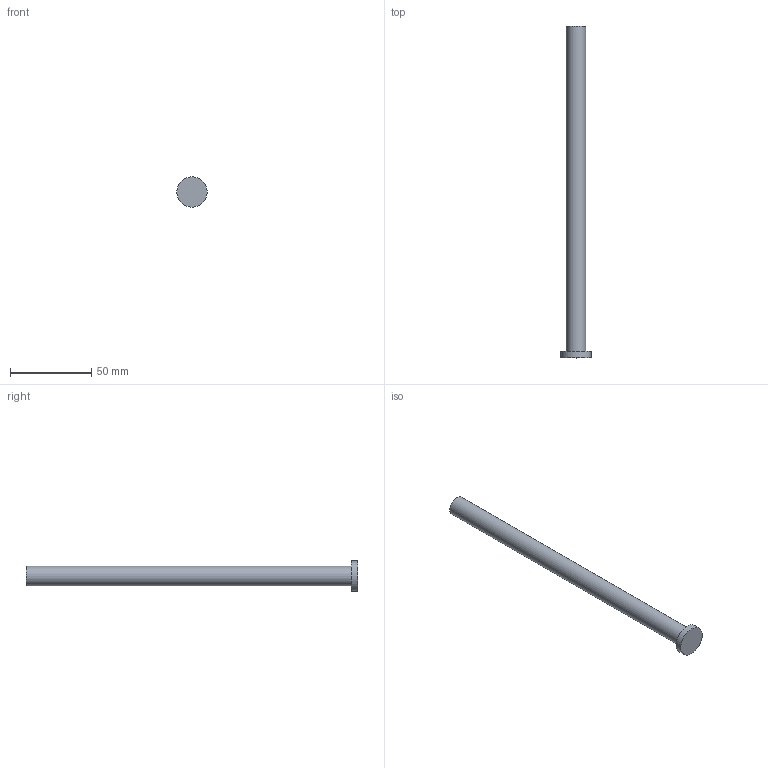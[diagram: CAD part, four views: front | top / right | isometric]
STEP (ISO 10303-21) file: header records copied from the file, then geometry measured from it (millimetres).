
FILE_DESCRIPTION(('Open CASCADE Model'),'2;1');
FILE_NAME('Open CASCADE Shape Model','2026-10-20T13:19:35',('Author'),( 'Open CASCADE'),'Open CASCADE STEP processor 7.9','Open CASCADE 7.9' ,'Unknown');
FILE_SCHEMA(('AUTOMOTIVE_DESIGN { 1 0 10303 214 1 1 1 1 }'));
Length unit declared in the file: millimetre
Products named in the file (1): Open CASCADE STEP translator 7.9 40
Bounding box: 18.6 x 204 x 18.6 mm (x, y, z)
Volume: 23706.3 mm3; surface area: 8317 mm2
Topology: 1 solids, 1 shells, 5 faces, 6 edges, 4 vertices
Faces by surface type: plane 3, cylinder 2
Full cylindrical faces by diameter (mm): 12 x1, 18.6 x1
Entity records: 192 total; most frequent: DIRECTION 34, CARTESIAN_POINT 28, ORIENTED_EDGE 12, PCURVE 12, DEFINITIONAL_REPRESENTATION 12, AXIS2_PLACEMENT_3D 10, LINE 10, VECTOR 10
